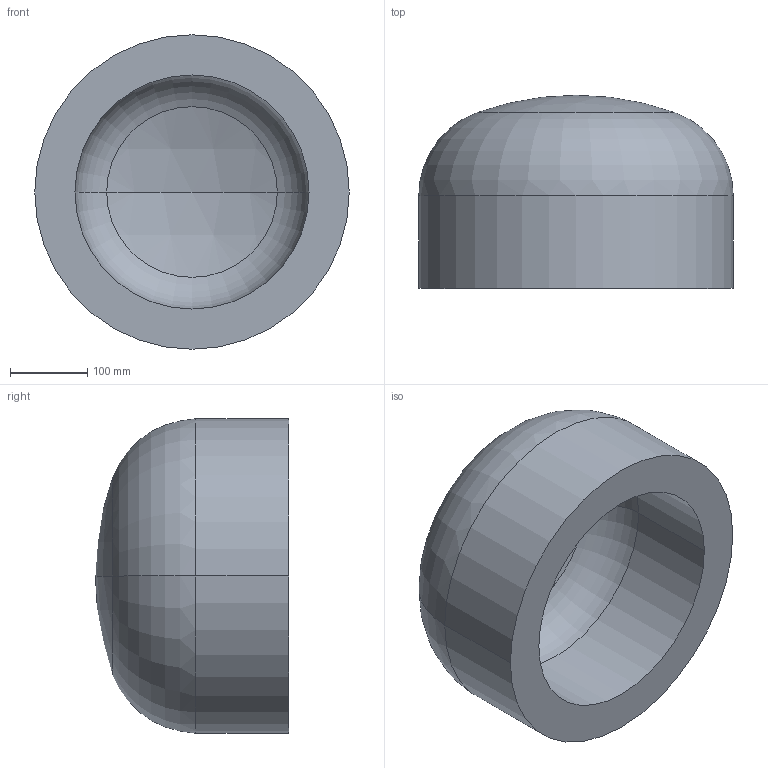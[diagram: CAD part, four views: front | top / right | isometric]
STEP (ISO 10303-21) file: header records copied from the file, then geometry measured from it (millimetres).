
FILE_DESCRIPTION (( 'STEP AP203' ), '1' );
FILE_NAME ('DIN 28013 Korbbogenform_-_Boden DIN 28013 - 406,4 x 120 - I - s=52.step', '2016-07-01T07:51:40', ( '' ), ( '' ), 'SwSTEP 2.0', 'SolidWorks 2013', '' );
FILE_SCHEMA (( 'CONFIG_CONTROL_DESIGN' ));
Length unit declared in the file: millimetre
Products named in the file (1): DIN 28013 Korbbogenform_-_Boden DIN 28013 - 406,4 x 120 - I - s=52
Bounding box: 406.4 x 249.59 x 406.4 mm (x, y, z)
Volume: 14928325.1 mm3; surface area: 637725.3 mm2
Topology: 1 solids, 1 shells, 13 faces, 24 edges, 14 vertices
Faces by surface type: torus 4, cylinder 4, sphere 4, plane 1
Entity records: 407 total; most frequent: DIRECTION 72, CARTESIAN_POINT 52, ORIENTED_EDGE 48, AXIS2_PLACEMENT_3D 34, EDGE_CURVE 24, CIRCLE 20, EDGE_LOOP 14, VERTEX_POINT 14
